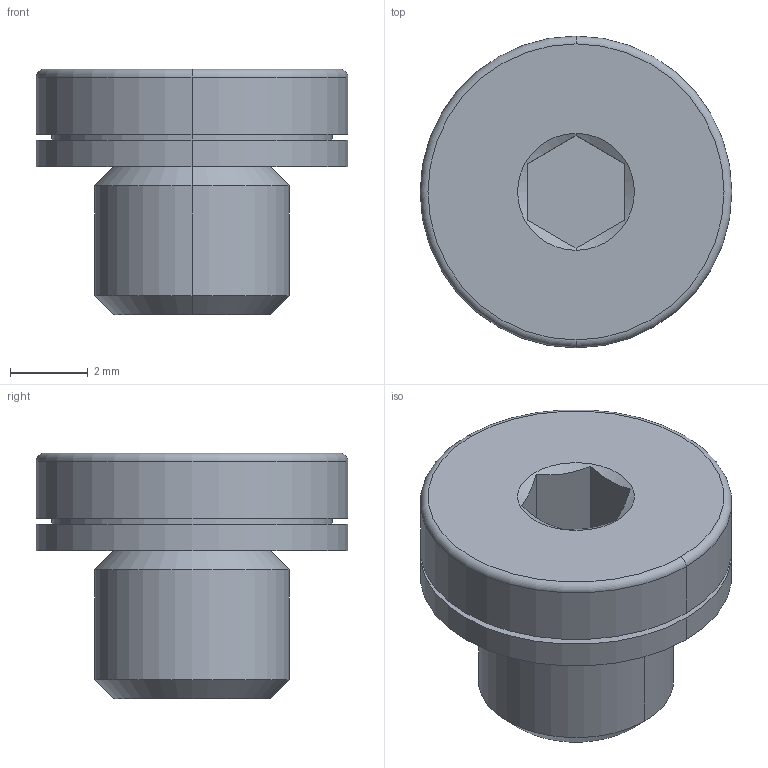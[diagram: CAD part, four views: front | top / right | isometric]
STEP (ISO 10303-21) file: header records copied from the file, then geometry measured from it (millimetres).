
FILE_DESCRIPTION (( 'STEP AP203' ), '1' );
FILE_NAME ('14010075.STEP', '2019-05-30T05:44:09', ( '' ), ( '' ), 'SwSTEP 2.0', 'SolidWorks 2015', '' );
FILE_SCHEMA (( 'CONFIG_CONTROL_DESIGN' ));
Length unit declared in the file: millimetre
Products named in the file (1): 14010075
Bounding box: 8 x 8 x 6.3 mm (x, y, z)
Volume: 181.5 mm3; surface area: 264.8 mm2
Topology: 1 solids, 1 shells, 28 faces, 58 edges, 36 vertices
Faces by surface type: plane 12, cylinder 8, cone 6, torus 2
Entity records: 843 total; most frequent: CARTESIAN_POINT 157, DIRECTION 136, ORIENTED_EDGE 116, EDGE_CURVE 58, AXIS2_PLACEMENT_3D 55, VERTEX_POINT 36, EDGE_LOOP 32, ADVANCED_FACE 28
